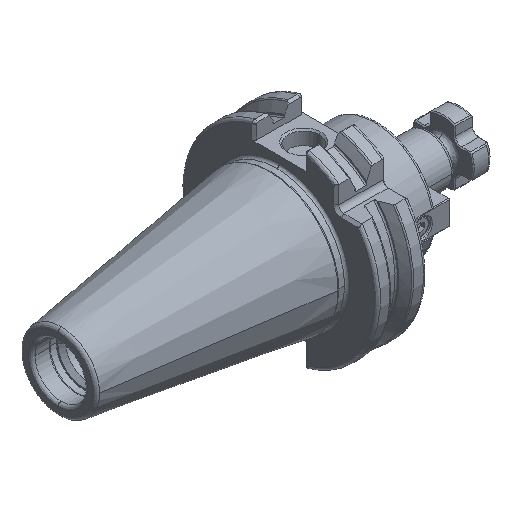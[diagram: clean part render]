
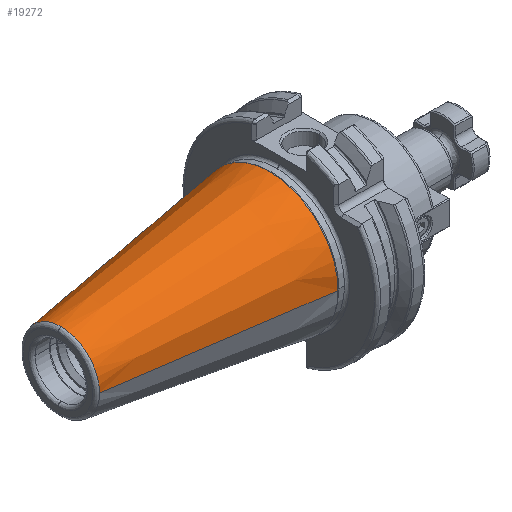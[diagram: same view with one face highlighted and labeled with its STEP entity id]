
A CAD part, isometric view. The second image highlights one B-rep face of the part: STEP entity #19272.
In plain terms, the highlighted conical face has half-angle 8.297 degrees and reference radius 22.225 mm.
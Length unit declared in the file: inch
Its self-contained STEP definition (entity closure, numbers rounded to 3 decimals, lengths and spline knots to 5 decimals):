
#390 = VECTOR ( 'NONE', #14489, 39.37008 ) ;
#426 = CARTESIAN_POINT ( 'NONE',  ( 0., 0., 0. ) ) ;
#1367 = EDGE_CURVE ( 'NONE', #18789, #18096, #4268, .T. ) ;
#1605 = EDGE_CURVE ( 'NONE', #13815, #17433, #17688, .T. ) ;
#2335 = ORIENTED_EDGE ( 'NONE', *, *, #19621, .F. ) ;
#2436 = CARTESIAN_POINT ( 'NONE',  ( 0., 0., 0. ) ) ;
#3226 = EDGE_LOOP ( 'NONE', ( #13550, #4177, #18657, #21155, #2335 ) ) ;
#3301 = CARTESIAN_POINT ( 'NONE',  ( 0., 0.875, 0. ) ) ;
#4177 = ORIENTED_EDGE ( 'NONE', *, *, #17857, .T. ) ;
#4268 = CIRCLE ( 'NONE', #15357, 0.48818 ) ;
#5051 = AXIS2_PLACEMENT_3D ( 'NONE', #2436, #12180, #10019 ) ;
#6445 = VERTEX_POINT ( 'NONE', #3301 ) ;
#7185 = LINE ( 'NONE', #16586, #16155 ) ;
#7678 = DIRECTION ( 'NONE',  ( 1., 0., 0. ) ) ;
#7769 = DIRECTION ( 'NONE',  ( -1., 0., 0. ) ) ;
#8366 = AXIS2_PLACEMENT_3D ( 'NONE', #13488, #9420, #20423 ) ;
#9251 = CONICAL_SURFACE ( 'NONE', #5051, 0.875, 0.145 ) ;
#9420 = DIRECTION ( 'NONE',  ( 1., 0., 0. ) ) ;
#10019 = DIRECTION ( 'NONE',  ( 0., 1., 0. ) ) ;
#10192 = EDGE_CURVE ( 'NONE', #17433, #6445, #10971, .T. ) ;
#10971 = CIRCLE ( 'NONE', #16744, 0.875 ) ;
#12180 = DIRECTION ( 'NONE',  ( 1., 0., 0. ) ) ;
#12601 = CIRCLE ( 'NONE', #8366, 0.48818 ) ;
#12657 = CARTESIAN_POINT ( 'NONE',  ( -2.65249, 0., 0.48818 ) ) ;
#13261 = CARTESIAN_POINT ( 'NONE',  ( -2.65249, -0.48818, 0. ) ) ;
#13488 = CARTESIAN_POINT ( 'NONE',  ( -2.65249, 0., 0. ) ) ;
#13550 = ORIENTED_EDGE ( 'NONE', *, *, #1367, .T. ) ;
#13815 = VERTEX_POINT ( 'NONE', #13261 ) ;
#14489 = DIRECTION ( 'NONE',  ( 0.99, -0.144, 0. ) ) ;
#14518 = DIRECTION ( 'NONE',  ( 0.99, 0.144, 0. ) ) ;
#14599 = CARTESIAN_POINT ( 'NONE',  ( 0., -0.875, 0. ) ) ;
#15357 = AXIS2_PLACEMENT_3D ( 'NONE', #16868, #7678, #18819 ) ;
#16155 = VECTOR ( 'NONE', #14518, 39.37008 ) ;
#16586 = CARTESIAN_POINT ( 'NONE',  ( 0., 0.875, 0. ) ) ;
#16744 = AXIS2_PLACEMENT_3D ( 'NONE', #426, #7769, #20702 ) ;
#16868 = CARTESIAN_POINT ( 'NONE',  ( -2.65249, 0., 0. ) ) ;
#17433 = VERTEX_POINT ( 'NONE', #22029 ) ;
#17688 = LINE ( 'NONE', #14599, #390 ) ;
#17857 = EDGE_CURVE ( 'NONE', #18096, #13815, #12601, .T. ) ;
#18096 = VERTEX_POINT ( 'NONE', #12657 ) ;
#18657 = ORIENTED_EDGE ( 'NONE', *, *, #1605, .T. ) ;
#18789 = VERTEX_POINT ( 'NONE', #21206 ) ;
#18819 = DIRECTION ( 'NONE',  ( 0., 1., 0. ) ) ;
#18969 = FACE_OUTER_BOUND ( 'NONE', #3226, .T. ) ;
#19272 = ADVANCED_FACE ( 'NONE', ( #18969 ), #9251, .T. ) ;
#19621 = EDGE_CURVE ( 'NONE', #18789, #6445, #7185, .T. ) ;
#20423 = DIRECTION ( 'NONE',  ( 0., 1., 0. ) ) ;
#20702 = DIRECTION ( 'NONE',  ( 0., 1., 0. ) ) ;
#21155 = ORIENTED_EDGE ( 'NONE', *, *, #10192, .T. ) ;
#21206 = CARTESIAN_POINT ( 'NONE',  ( -2.65249, 0.48818, 0. ) ) ;
#22029 = CARTESIAN_POINT ( 'NONE',  ( 0., -0.875, 0. ) ) ;
